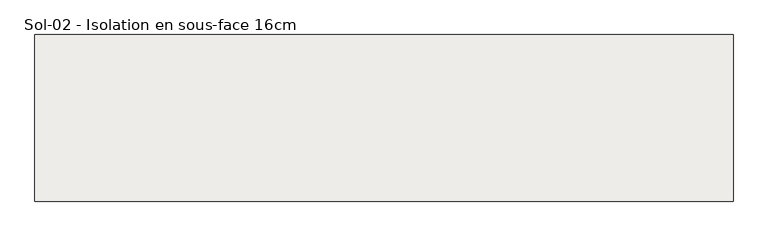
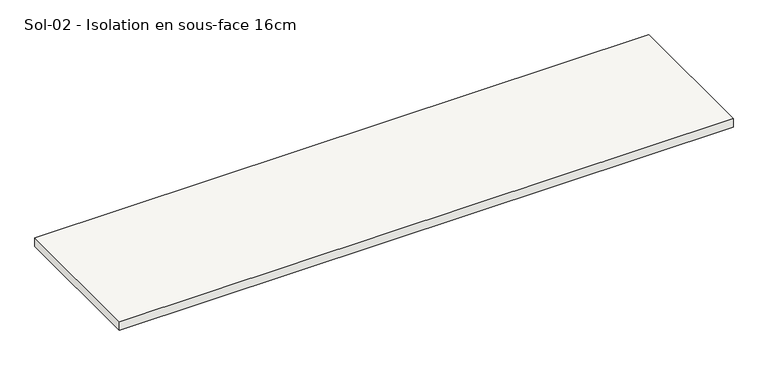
"""IFC4 building model written with IfcOpenShell, lengths in millimetres: slab geometry, Sol-02 - Isolation en sous-face 16cm."""

import ifcopenshell
import ifcopenshell.guid

model = None  # the IFC model being written
_history = None  # IfcOwnerHistory: only IFC2X3 demands one
_inside = {}  # id of a spatial element -> (the spatial element, [elements in it])
_under = {}  # id of a project, library or spatial element -> (it, [spatial elements below it])
_declared = {}  # id of a project -> (the project, [libraries it declares])
_typed = {}  # id of a type object -> (the type object, [elements of that type])
_made_of = {}  # id of a material, layer set ... -> (it, [elements and type objects made of it])


def new_model(schema):
    """Start an empty IFC model of exactly this schema.

    Asked for "IFC4X3", IfcOpenShell would pick the latest addendum, in which some entities
    have other attributes; the version numbers below select the first issue.
    IFC2X3 requires an IfcOwnerHistory on every rooted entity: one is made here for all.
    """
    global model, _history
    if schema == "IFC4X3":
        model = ifcopenshell.file(schema_version=(4, 3, 0, 0))
    else:
        model = ifcopenshell.file(schema=schema)
    _inside.clear()
    _under.clear()
    _declared.clear()
    _typed.clear()
    _made_of.clear()
    _history = None
    if model.schema == "IFC2X3":
        org = make("IfcOrganization", Name="unknown")
        user = make(
            "IfcPersonAndOrganization",
            ThePerson=make("IfcPerson", FamilyName="unknown"),
            TheOrganization=org,
        )
        app = make(
            "IfcApplication",
            ApplicationDeveloper=org,
            Version="unknown",
            ApplicationFullName="unknown",
            ApplicationIdentifier="unknown",
        )
        _history = make(
            "IfcOwnerHistory",
            OwningUser=user,
            OwningApplication=app,
            ChangeAction="ADDED",
            CreationDate=0,
        )
    return model


def make(cls, **values):
    """One entity of the class cls with the attributes given. An attribute that is None is left unset."""
    return model.create_entity(
        cls, **{name: value for name, value in values.items() if value is not None}
    )


def rooted(cls, **values):
    """An entity with a GlobalId (a new one), such as an element, a storey or a relation."""
    return make(cls, GlobalId=ifcopenshell.guid.new(), OwnerHistory=_history, **values)


def si_unit(unit_type, name, prefix=None):
    """IfcSIUnit, for example si_unit("LENGTHUNIT", "METRE", prefix="MILLI")."""
    return make("IfcSIUnit", UnitType=unit_type, Prefix=prefix, Name=name)


def assignment(units):
    """IfcUnitAssignment: the units of a project."""
    return None if units is None else make("IfcUnitAssignment", Units=units)


def point(xyz):
    """IfcCartesianPoint."""
    return None if xyz is None else make("IfcCartesianPoint", Coordinates=xyz)


def direction(xyz):
    """IfcDirection."""
    return None if xyz is None else make("IfcDirection", DirectionRatios=xyz)


def frame(location, z_axis=None, x_axis=None):
    """IfcAxis2Placement3D, a coordinate frame: its origin and axes. An axis left out is left unset."""
    return make(
        "IfcAxis2Placement3D",
        Location=point(location),
        Axis=direction(z_axis),
        RefDirection=direction(x_axis),
    )


def origin():
    """The frame at (0, 0, 0) with its axes left unset."""
    return frame((0.0, 0.0, 0.0))


def place(relative_to, where):
    """IfcLocalPlacement: puts the frame where relative to a parent placement (None: the world)."""
    return make(
        "IfcLocalPlacement", PlacementRelTo=relative_to, RelativePlacement=where
    )


def context(
    kind, dimensions, precision=None, world=None, true_north=None, identifier=None
):
    """IfcGeometricRepresentationContext, for example the 3D "Model" context."""
    return make(
        "IfcGeometricRepresentationContext",
        ContextIdentifier=identifier,
        ContextType=kind,
        CoordinateSpaceDimension=dimensions,
        Precision=precision,
        WorldCoordinateSystem=world,
        TrueNorth=true_north,
    )


def project(units=None, contexts=None):
    """IfcProject with its units and contexts."""
    return rooted(
        "IfcProject",
        Name="project",
        RepresentationContexts=contexts,
        UnitsInContext=assignment(units),
    )


def spatial(cls, under=None, at=None, **own):
    """A site, building, storey or space (cls), placed at a placement, below another one or the project."""
    s = rooted(cls, ObjectPlacement=at, **own)
    if under is not None:
        _under.setdefault(under.id(), (under, []))[1].append(s)
    return s


def polyline(points):
    """IfcPolyline through the points."""
    return make("IfcPolyline", Points=[point(p) for p in points])


def outline(outer, holes=None, kind="AREA"):
    """IfcArbitraryClosedProfileDef: a profile drawn as a closed curve; with holes, ...WithVoids."""
    if holes is None:
        return make("IfcArbitraryClosedProfileDef", ProfileType=kind, OuterCurve=outer)
    return make(
        "IfcArbitraryProfileDefWithVoids",
        ProfileType=kind,
        OuterCurve=outer,
        InnerCurves=holes,
    )


def extrude(swept, where, along, depth):
    """IfcExtrudedAreaSolid: the profile swept, set in the frame where, extruded along a direction by depth."""
    return make(
        "IfcExtrudedAreaSolid",
        SweptArea=swept,
        Position=where,
        ExtrudedDirection=direction(along),
        Depth=depth,
    )


def shape(context_of_items, identifier, shape_type, items):
    """IfcShapeRepresentation: the items that make up one representation, for example the "Body"."""
    return make(
        "IfcShapeRepresentation",
        ContextOfItems=context_of_items,
        RepresentationIdentifier=identifier,
        RepresentationType=shape_type,
        Items=items,
    )


def source(mapping_origin, context_of_items, identifier, shape_type, items):
    """IfcRepresentationMap: a shape defined once, which mapped items show again and again."""
    return make(
        "IfcRepresentationMap",
        MappingOrigin=mapping_origin,
        MappedRepresentation=shape(context_of_items, identifier, shape_type, items),
    )


def transform(
    local_origin,
    x_axis=None,
    y_axis=None,
    z_axis=None,
    scale=None,
    scale2=None,
    scale3=None,
    uniform=True,
):
    """IfcCartesianTransformationOperator3D, or its non-uniform kind. x_axis, y_axis, z_axis: its Axis1, 2, 3."""
    if uniform:
        return make(
            "IfcCartesianTransformationOperator3D",
            Axis1=direction(x_axis),
            Axis2=direction(y_axis),
            LocalOrigin=point(local_origin),
            Scale=scale,
            Axis3=direction(z_axis),
        )
    return make(
        "IfcCartesianTransformationOperator3DnonUniform",
        Axis1=direction(x_axis),
        Axis2=direction(y_axis),
        LocalOrigin=point(local_origin),
        Scale=scale,
        Axis3=direction(z_axis),
        Scale2=scale2,
        Scale3=scale3,
    )


def mapped(mapping_source, mapping_target):
    """IfcMappedItem: shows the shape of a source again, moved by a transform."""
    return make(
        "IfcMappedItem", MappingSource=mapping_source, MappingTarget=mapping_target
    )


def made_of(thing, what):
    """Note that an element or type object is made of a material, layer set ...; save() writes the relation."""
    if what is not None:
        _made_of.setdefault(what.id(), (what, []))[1].append(thing)
    return thing


def element(
    cls,
    number,
    at=None,
    inside=None,
    cuts=None,
    type_object=None,
    material=None,
    context=None,
    identifier="Body",
    shape_type=None,
    held_by="IfcProductDefinitionShape",
    body=None,
    shapes=None,
    **own,
):
    """One element of the class cls, such as IfcWall. Its Tag is "e" and its number.

    at: its placement. inside: the storey or other place that contains it. cuts: it is an
    opening in that element (IfcRelVoidsElement). A single representation is given by context,
    identifier, shape_type and body (its items); several are given by shapes. held_by: the class
    of the entity that holds the representations. save() writes the other relations.
    """
    e = rooted(cls, Tag="e%d" % number, ObjectPlacement=at, **own)
    if body is not None:
        shapes = [shape(context, identifier, shape_type, body)]
    if shapes is not None:
        e.Representation = make(held_by, Representations=shapes)
    if inside is not None:
        _inside.setdefault(inside.id(), (inside, []))[1].append(e)
    if cuts is not None:
        rooted(
            "IfcRelVoidsElement", RelatingBuildingElement=cuts, RelatedOpeningElement=e
        )
    if type_object is not None:
        _typed.setdefault(type_object.id(), (type_object, []))[1].append(e)
    return made_of(e, material)


def aggregate(whole, parts):
    """IfcRelAggregates: a whole, such as a stair, and the parts it consists of."""
    return rooted("IfcRelAggregates", RelatingObject=whole, RelatedObjects=parts)


def save(model, path):
    """Write the relations noted so far, then the file.

    IfcRelAggregates (storeys below a building ...), IfcRelContainedInSpatialStructure (elements
    in a storey), IfcRelDefinesByType, IfcRelAssociatesMaterial and IfcRelDeclares: one each for
    every whole, place, type object, material and project.
    """
    for whole, parts in _under.values():
        aggregate(whole, parts)
    for where, things in _inside.values():
        rooted(
            "IfcRelContainedInSpatialStructure",
            RelatedElements=things,
            RelatingStructure=where,
        )
    for kind, things in _typed.values():
        rooted("IfcRelDefinesByType", RelatedObjects=things, RelatingType=kind)
    for what, things in _made_of.values():
        rooted("IfcRelAssociatesMaterial", RelatedObjects=things, RelatingMaterial=what)
    for by, libraries in _declared.values():
        rooted("IfcRelDeclares", RelatingContext=by, RelatedDefinitions=libraries)
    model.write(path)


def sol_02_isolation_en_sous_face_16cm_2c6495e5(model_context):
    return source(origin(), model_context, "Body", "SweptSolid", [
        extrude(outline(polyline([(-36679.9987968, -5275.4850099), (-36679.9987968, -7900.4850099), (-47679.998776, -7900.4850099), (-47679.998776, -5275.4850099), (-36679.9987968, -5275.4850099)])), frame((0.0, 0.0, -470.0), z_axis=(0.0, 0.0, 1.0), x_axis=(1.0, 0.0, 0.0)), (0.0, 0.0, 1.0), 160.0),
    ])


if __name__ == "__main__":
    model = new_model("IFC4")
    model_context = context("Model", 3, world=origin())
    ifc_project = project(units=[si_unit("LENGTHUNIT", "METRE", prefix="MILLI")], contexts=[model_context])
    site = spatial("IfcSite", under=ifc_project)
    building = spatial("IfcBuilding", under=site)
    placement = place(None, origin())
    sol_02_isolation_en_sous_face_16cm_shape = sol_02_isolation_en_sous_face_16cm_2c6495e5(model_context)
    element("IfcSlab", 1, ObjectType="Sol-02 - Isolation en sous-face 16cm", at=placement, inside=building, context=model_context, shape_type="MappedRepresentation", body=[
        mapped(sol_02_isolation_en_sous_face_16cm_shape, transform((0.0, 0.0, 0.0), x_axis=(1.0, 0.0, 0.0), y_axis=(0.0, 1.0, 0.0), z_axis=(0.0, 0.0, 1.0))),
    ])
    save(model, "model.ifc")
